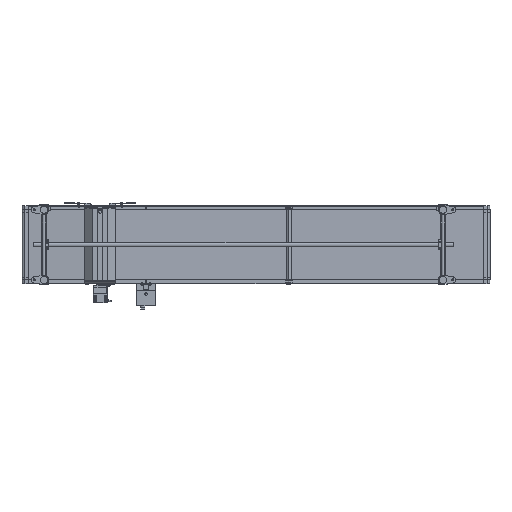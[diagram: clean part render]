
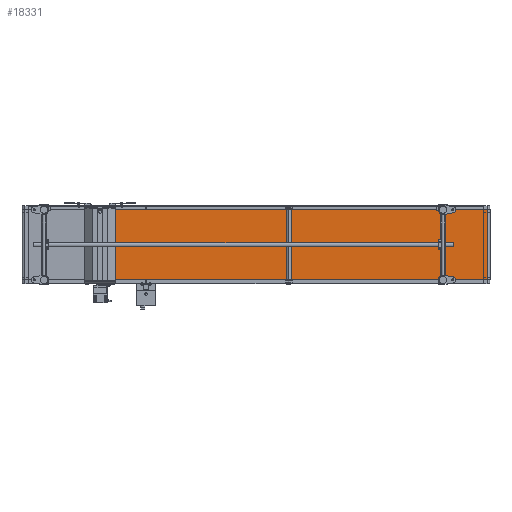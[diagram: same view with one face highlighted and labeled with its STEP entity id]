
A CAD part, front view. The second image highlights one B-rep face of the part: STEP entity #18331.
In plain terms, the highlighted planar face has unit normal (0.008, -1, 0).
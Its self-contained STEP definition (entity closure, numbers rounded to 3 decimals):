
#1293 = VECTOR ( 'NONE', #57856, 1000. ) ;
#1668 = EDGE_CURVE ( 'NONE', #103063, #44052, #26457, .T. ) ;
#3679 = CARTESIAN_POINT ( 'NONE',  ( 2983.144, -33.999, 225. ) ) ;
#4762 = LINE ( 'NONE', #3679, #62693 ) ;
#5881 = CARTESIAN_POINT ( 'NONE',  ( 546.701, -53.466, -225. ) ) ;
#6184 = CARTESIAN_POINT ( 'NONE',  ( 2983.144, -33.999, 225. ) ) ;
#8701 = ORIENTED_EDGE ( 'NONE', *, *, #97462, .F. ) ;
#18331 = ADVANCED_FACE ( 'NONE', ( #87691 ), #35136, .F. ) ;
#26457 = LINE ( 'NONE', #60752, #1293 ) ;
#26775 = ORIENTED_EDGE ( 'NONE', *, *, #89322, .T. ) ;
#32510 = DIRECTION ( 'NONE',  ( 0., 0., -1. ) ) ;
#35136 = PLANE ( 'NONE',  #48274 ) ;
#35472 = CARTESIAN_POINT ( 'NONE',  ( 546.701, -53.466, 225. ) ) ;
#35683 = VERTEX_POINT ( 'NONE', #72323 ) ;
#41049 = EDGE_CURVE ( 'NONE', #100194, #35683, #4762, .T. ) ;
#44052 = VERTEX_POINT ( 'NONE', #122728 ) ;
#44749 = DIRECTION ( 'NONE',  ( -0.008, 1., 0. ) ) ;
#48274 = AXIS2_PLACEMENT_3D ( 'NONE', #6184, #44749, #62703 ) ;
#57310 = EDGE_LOOP ( 'NONE', ( #84288, #8701, #73592, #26775 ) ) ;
#57856 = DIRECTION ( 'NONE',  ( 1., 0.008, 0. ) ) ;
#60752 = CARTESIAN_POINT ( 'NONE',  ( 2983.144, -33.999, -225. ) ) ;
#62693 = VECTOR ( 'NONE', #80187, 1000. ) ;
#62703 = DIRECTION ( 'NONE',  ( -1., -0.008, 0. ) ) ;
#66109 = VECTOR ( 'NONE', #78821, 1000. ) ;
#68405 = CARTESIAN_POINT ( 'NONE',  ( 546.701, -53.466, 225. ) ) ;
#72323 = CARTESIAN_POINT ( 'NONE',  ( 2983.144, -33.999, 225. ) ) ;
#73592 = ORIENTED_EDGE ( 'NONE', *, *, #41049, .F. ) ;
#78821 = DIRECTION ( 'NONE',  ( 0., 0., -1. ) ) ;
#80187 = DIRECTION ( 'NONE',  ( 1., 0.008, 0. ) ) ;
#80953 = LINE ( 'NONE', #68405, #66109 ) ;
#84081 = LINE ( 'NONE', #107345, #116638 ) ;
#84288 = ORIENTED_EDGE ( 'NONE', *, *, #1668, .T. ) ;
#87691 = FACE_OUTER_BOUND ( 'NONE', #57310, .T. ) ;
#89322 = EDGE_CURVE ( 'NONE', #100194, #103063, #80953, .T. ) ;
#97462 = EDGE_CURVE ( 'NONE', #35683, #44052, #84081, .T. ) ;
#100194 = VERTEX_POINT ( 'NONE', #35472 ) ;
#103063 = VERTEX_POINT ( 'NONE', #5881 ) ;
#107345 = CARTESIAN_POINT ( 'NONE',  ( 2983.144, -33.999, 225. ) ) ;
#116638 = VECTOR ( 'NONE', #32510, 1000. ) ;
#122728 = CARTESIAN_POINT ( 'NONE',  ( 2983.144, -33.999, -225. ) ) ;
